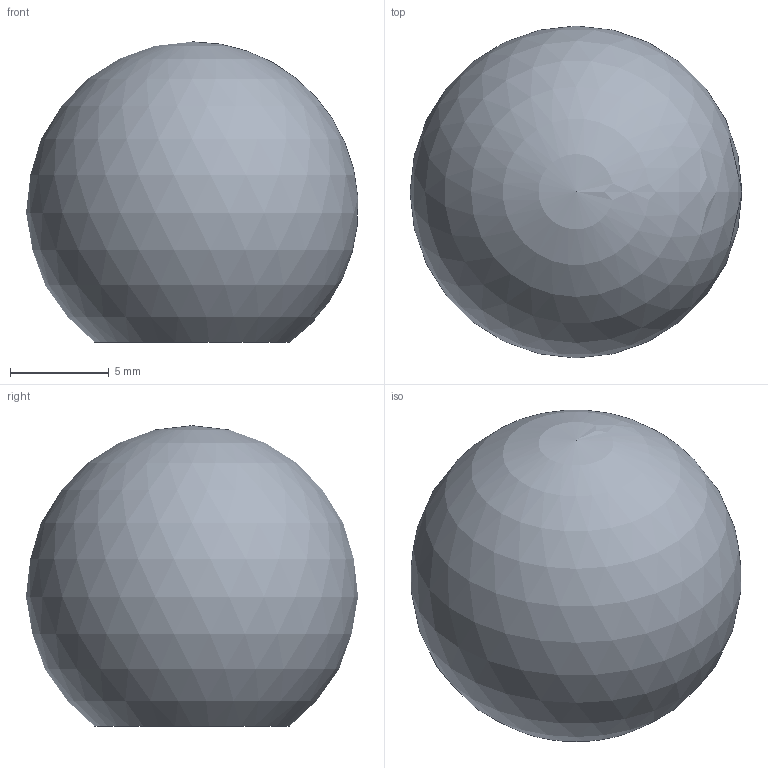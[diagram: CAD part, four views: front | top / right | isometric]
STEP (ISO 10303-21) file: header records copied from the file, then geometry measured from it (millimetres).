
FILE_DESCRIPTION( ('This file contains a STEP AP42 implementation' ,'as created by ZW3D STEP Interface translator.') ,'2;1' );
FILE_NAME( 'Galka kulista DK16 typA.stp' ,'26 331. 83630', (''), ('ZWCAD Software Co.'), 'Version 1.0', 'ZW3D to STEP translator', '' );
FILE_SCHEMA(('AP242_MANAGED_MODEL_BASED_3D_ENGINEERING_MIM_LF { 1 0 10303 442 1 1 4 }'));
Length unit declared in the file: millimetre
Products named in the file (1): 0
Bounding box: 16.78 x 16.79 x 15.2 mm (x, y, z)
Volume: 2274 mm3; surface area: 1990.4 mm2
Topology: 2 solids, 2 shells, 16 faces, 29 edges, 16 vertices
Faces by surface type: cylinder 6, cone 6, plane 3, sphere 1
Full cylindrical faces by diameter (mm): 4.2 x2, 9.863 x2, 11 x2
Entity records: 419 total; most frequent: DIRECTION 76, CARTESIAN_POINT 60, ORIENTED_EDGE 54, AXIS2_PLACEMENT_3D 32, EDGE_CURVE 27, EDGE_LOOP 17, VERTEX_POINT 16, FACE_OUTER_BOUND 16
